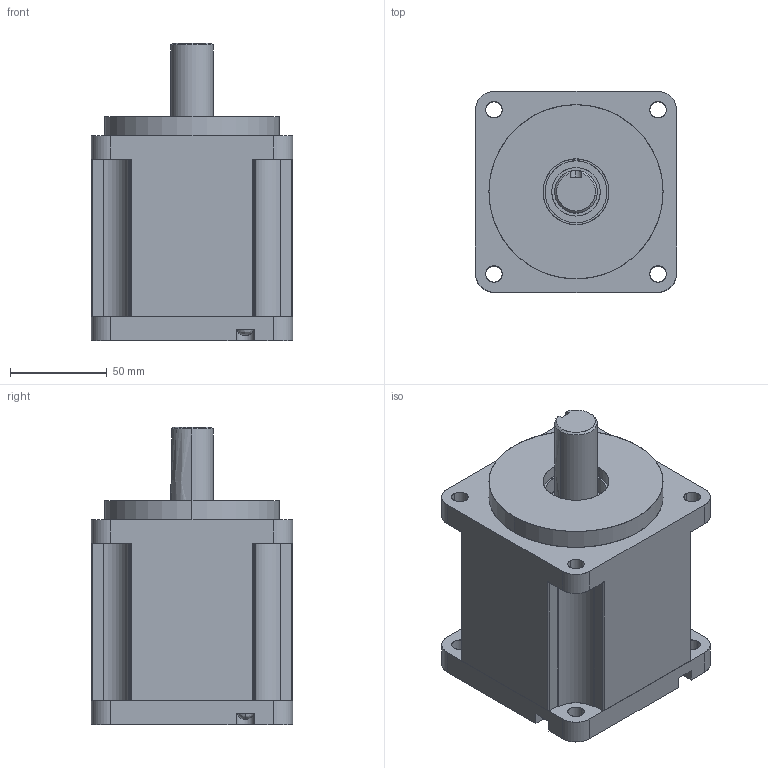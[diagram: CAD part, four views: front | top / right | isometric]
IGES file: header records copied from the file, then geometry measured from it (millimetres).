
Start section: SolidWorks IGES file using analytic representation for surfaces
Global section: file name: C:\Users\DKM0728\Desktop\(12-13) 10UBK¡àBH((3~60).IGS; native system: SolidWorks 2011; preprocessor: SolidWorks 2011; author: DKM0728; date: 170726.135451; units: millimetre
Bounding box: 104 x 104 x 154 mm (x, y, z)
Surface area: 100919.2 mm2 (no closed solid volume)
Topology: 0 solids, 0 shells, 157 faces, 3049 edges, 3049 vertices
Faces by surface type: bspline 79, revolution 78
